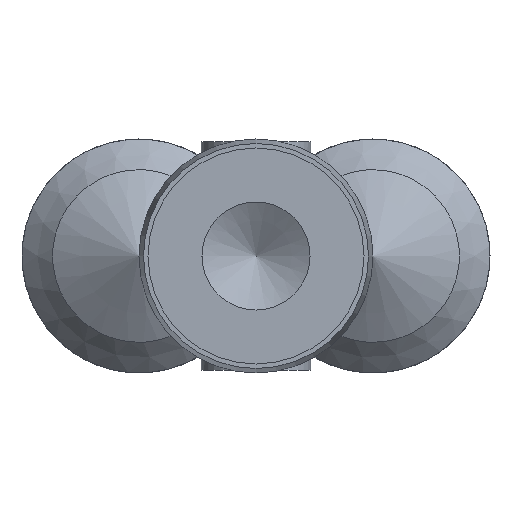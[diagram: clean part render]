
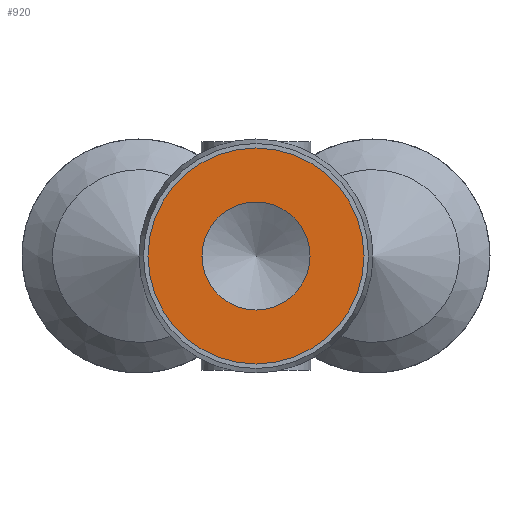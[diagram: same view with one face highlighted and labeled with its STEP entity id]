
A CAD part, left-side view. The second image highlights one B-rep face of the part: STEP entity #920.
In plain terms, the highlighted planar face has unit normal (-1, 0, 0).
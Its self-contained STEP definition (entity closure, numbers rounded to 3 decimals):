
#147=CARTESIAN_POINT('',(-22.0,-3.0,0.));
#148=VERTEX_POINT('',#147);
#149=CARTESIAN_POINT('',(-22.0,0.0,0.0));
#150=DIRECTION('',(1.0,0.0,0.0));
#151=DIRECTION('',(0.0,1.0,0.0));
#152=AXIS2_PLACEMENT_3D('',#149,#150,#151);
#153=CIRCLE('',#152,3.0);
#154=EDGE_CURVE('',#148,#148,#153,.T.);
#901=CARTESIAN_POINT('',(-22.0,3.0,0.0));
#902=DIRECTION('',(-1.0,0.0,0.0));
#903=DIRECTION('',(0.0,0.0,1.0));
#904=AXIS2_PLACEMENT_3D('',#901,#902,#903);
#905=PLANE('',#904);
#906=CARTESIAN_POINT('',(-22.0,6.,0.0));
#907=VERTEX_POINT('',#906);
#908=CARTESIAN_POINT('',(-22.0,0.0,0.0));
#909=DIRECTION('',(1.0,0.0,0.0));
#910=DIRECTION('',(0.0,1.0,0.0));
#911=AXIS2_PLACEMENT_3D('',#908,#909,#910);
#912=CIRCLE('',#911,6.);
#913=EDGE_CURVE('',#907,#907,#912,.T.);
#914=ORIENTED_EDGE('',*,*,#913,.F.);
#915=EDGE_LOOP('',(#914));
#916=FACE_OUTER_BOUND('',#915,.T.);
#917=ORIENTED_EDGE('',*,*,#154,.T.);
#918=EDGE_LOOP('',(#917));
#919=FACE_BOUND('',#918,.T.);
#920=ADVANCED_FACE('',(#916,#919),#905,.T.);
